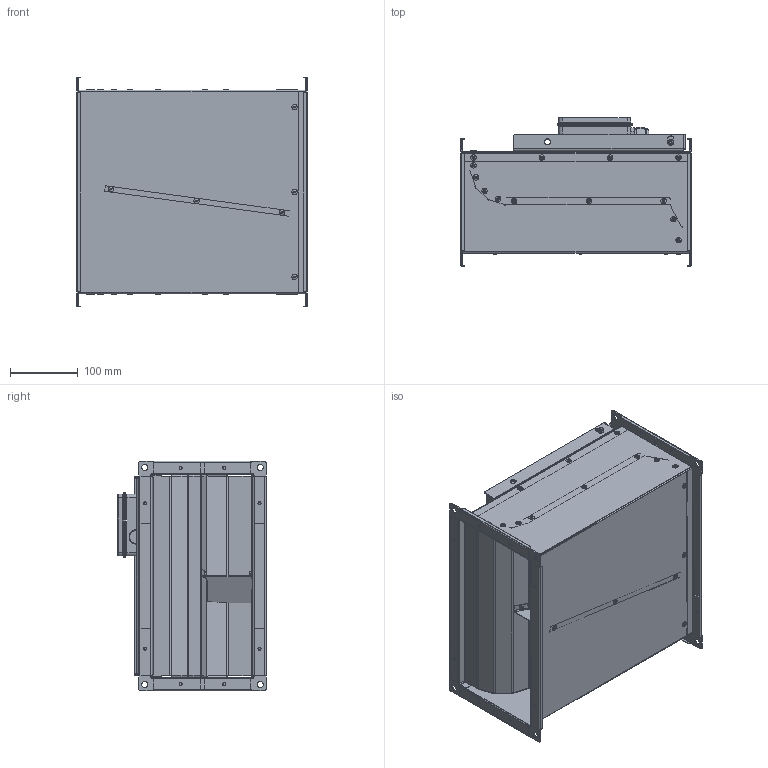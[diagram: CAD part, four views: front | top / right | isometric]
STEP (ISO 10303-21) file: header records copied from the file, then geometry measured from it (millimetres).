
FILE_DESCRIPTION (( 'STEP AP203' ), '1' );
FILE_NAME ('135000-00_KVR03015E240.STEP', '2015-12-21T06:21:45', ( '' ), ( '' ), 'SwSTEP 2.0', 'SolidWorks 2012', '' );
FILE_SCHEMA (( 'CONFIG_CONTROL_DESIGN' ));
Length unit declared in the file: millimetre
Products named in the file (1): 135000-00_KVR03015E240
Bounding box: 340.4 x 218.7 x 338.4 mm (x, y, z)
Surface area: 1140011.1 mm2 (no closed solid volume)
Topology: 0 solids, 112 shells, 1210 faces, 3802 edges, 2665 vertices
Faces by surface type: cylinder 516, plane 488, torus 140, cone 42, bspline 24
Entity records: 47216 total; most frequent: CARTESIAN_POINT 13330, DIRECTION 7376, ORIENTED_EDGE 6010, EDGE_CURVE 3802, AXIS2_PLACEMENT_3D 2775, VERTEX_POINT 2665, LINE 1826, VECTOR 1826
